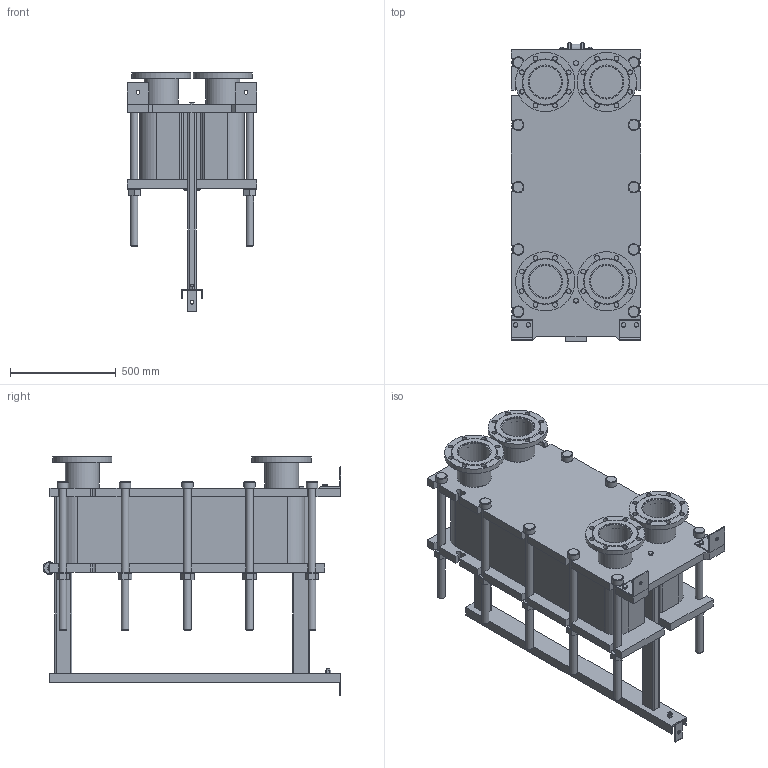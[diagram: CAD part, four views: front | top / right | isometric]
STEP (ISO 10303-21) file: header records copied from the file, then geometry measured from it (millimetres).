
FILE_DESCRIPTION(/* description */ (''),/* implementation_level */ '2;1');
FILE_NAME(/* name */ 'C:\Users\zhuro\Desktop\ENCO\TO\ЭН-041\ЭН-0,5-041-92-1.stp',/* time_stamp */ '2022-06-06T10:57:23+03:00',/* author */ ('zhuro'),/* organization */ (''),/* preprocessor_version */ 'ST-DEVELOPER v18.1',/* originating_system */ 'Autodesk Inventor 2022',/* authorisation */ '');
FILE_SCHEMA (('AUTOMOTIVE_DESIGN { 1 0 10303 214 3 1 1 }'));
Length unit declared in the file: millimetre
Products named in the file (1): ЭН-0,5-041-92-1
Bounding box: 610 x 1406.5 x 1130 mm (x, y, z)
Volume: 258428563.7 mm3; surface area: 8848117.7 mm2
Topology: 52 solids, 52 shells, 711 faces, 1696 edges, 1094 vertices
Faces by surface type: plane 487, cylinder 177, cone 41, torus 6
Full cylindrical faces by diameter (mm): 8 x4, 10 x2, 16 x8, 18 x3, 22 x32, 36 x24, 50 x1, 54 x10, 60 x12, 151 x4, 161 x8, 280 x4
Entity records: 22667 total; most frequent: CARTESIAN_POINT 5230, DIRECTION 3644, ORIENTED_EDGE 3392, EDGE_CURVE 1696, AXIS2_PLACEMENT_3D 1272, LINE 1100, VECTOR 1100, VERTEX_POINT 1094
